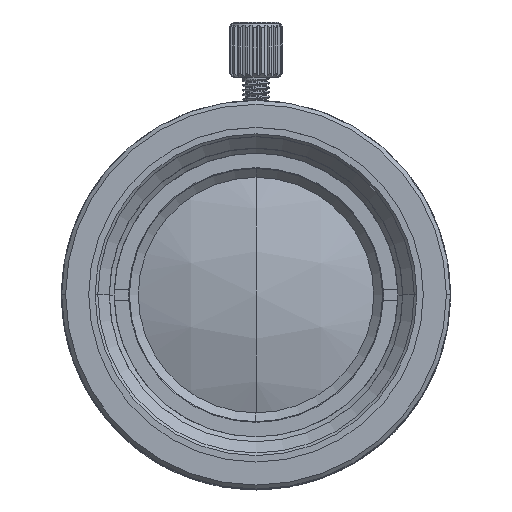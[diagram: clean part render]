
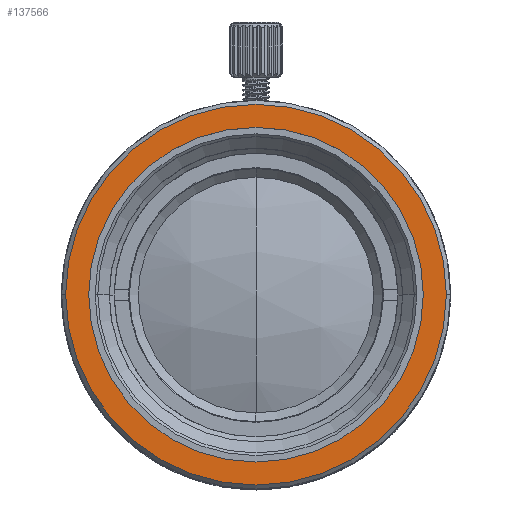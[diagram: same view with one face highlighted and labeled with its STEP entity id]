
A CAD part, top view. The second image highlights one B-rep face of the part: STEP entity #137566.
In plain terms, the highlighted planar face has unit normal (0, 0, 1).
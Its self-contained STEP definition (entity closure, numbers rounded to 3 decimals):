
#567 = CARTESIAN_POINT ( 'NONE',  ( -12.48, 0., 39.756 ) ) ;
#4292 = FACE_OUTER_BOUND ( 'NONE', #203938, .T. ) ;
#7269 = CARTESIAN_POINT ( 'NONE',  ( 0., 0., 39.756 ) ) ;
#8719 = VERTEX_POINT ( 'NONE', #567 ) ;
#11541 = DIRECTION ( 'NONE',  ( -1., 0., 0. ) ) ;
#12249 = DIRECTION ( 'NONE',  ( 0., 1., 0. ) ) ;
#25274 = CARTESIAN_POINT ( 'NONE',  ( -14.2, 0., 39.756 ) ) ;
#33354 = PLANE ( 'NONE',  #77491 ) ;
#35263 = DIRECTION ( 'NONE',  ( 1., 0., 0. ) ) ;
#42182 = AXIS2_PLACEMENT_3D ( 'NONE', #123205, #189495, #12249 ) ;
#53939 = DIRECTION ( 'NONE',  ( -1., 0., 0. ) ) ;
#56469 = FACE_BOUND ( 'NONE', #75291, .T. ) ;
#59195 = DIRECTION ( 'NONE',  ( 0., 0., -1. ) ) ;
#60142 = ORIENTED_EDGE ( 'NONE', *, *, #160193, .F. ) ;
#60226 = CARTESIAN_POINT ( 'NONE',  ( 14.2, 0., 39.756 ) ) ;
#67052 = ORIENTED_EDGE ( 'NONE', *, *, #137190, .F. ) ;
#73836 = VERTEX_POINT ( 'NONE', #60226 ) ;
#75291 = EDGE_LOOP ( 'NONE', ( #82518, #67052 ) ) ;
#77491 = AXIS2_PLACEMENT_3D ( 'NONE', #189144, #254429, #35263 ) ;
#82518 = ORIENTED_EDGE ( 'NONE', *, *, #146248, .F. ) ;
#90959 = CIRCLE ( 'NONE', #272849, 12.48 ) ;
#95718 = EDGE_CURVE ( 'NONE', #288553, #73836, #121704, .T. ) ;
#121704 = CIRCLE ( 'NONE', #135306, 14.2 ) ;
#122289 = CARTESIAN_POINT ( 'NONE',  ( 12.48, 0., 39.756 ) ) ;
#123205 = CARTESIAN_POINT ( 'NONE',  ( 0., 0., 39.756 ) ) ;
#125384 = CARTESIAN_POINT ( 'NONE',  ( 0., 0., 39.756 ) ) ;
#126055 = CIRCLE ( 'NONE', #42182, 12.48 ) ;
#127346 = ORIENTED_EDGE ( 'NONE', *, *, #95718, .F. ) ;
#135306 = AXIS2_PLACEMENT_3D ( 'NONE', #125384, #59195, #11541 ) ;
#137190 = EDGE_CURVE ( 'NONE', #203122, #8719, #126055, .T. ) ;
#137566 = ADVANCED_FACE ( 'NONE', ( #56469, #4292 ), #33354, .F. ) ;
#146248 = EDGE_CURVE ( 'NONE', #8719, #203122, #90959, .T. ) ;
#160193 = EDGE_CURVE ( 'NONE', #73836, #288553, #286445, .T. ) ;
#164913 = DIRECTION ( 'NONE',  ( 0., 0., -1. ) ) ;
#166813 = DIRECTION ( 'NONE',  ( 0., 0., 1. ) ) ;
#167789 = DIRECTION ( 'NONE',  ( 0., 1., 0. ) ) ;
#189144 = CARTESIAN_POINT ( 'NONE',  ( 0., -14.2, 39.756 ) ) ;
#189495 = DIRECTION ( 'NONE',  ( 0., 0., 1. ) ) ;
#203122 = VERTEX_POINT ( 'NONE', #122289 ) ;
#203938 = EDGE_LOOP ( 'NONE', ( #60142, #127346 ) ) ;
#211363 = AXIS2_PLACEMENT_3D ( 'NONE', #7269, #164913, #53939 ) ;
#233096 = CARTESIAN_POINT ( 'NONE',  ( 0., 0., 39.756 ) ) ;
#254429 = DIRECTION ( 'NONE',  ( 0., 0., -1. ) ) ;
#272849 = AXIS2_PLACEMENT_3D ( 'NONE', #233096, #166813, #167789 ) ;
#286445 = CIRCLE ( 'NONE', #211363, 14.2 ) ;
#288553 = VERTEX_POINT ( 'NONE', #25274 ) ;
